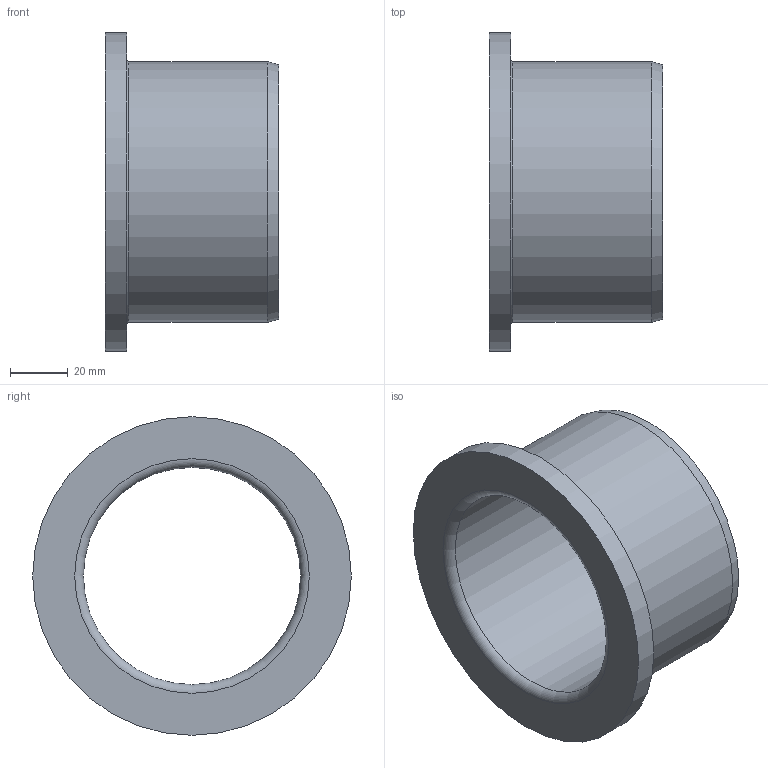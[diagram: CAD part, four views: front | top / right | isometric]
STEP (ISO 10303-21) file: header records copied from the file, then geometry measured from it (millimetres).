
FILE_DESCRIPTION(/* description */ ('Impex Ready, www.impex-ready.pl'),/* implementation_level */ '2;1');
FILE_NAME(/* name */ 'C:\Users\VIKKY\Nextcloud\SM\projekt 10 - części na stronę internetową\Pliki_3D_new\309 Tuleje BG07\309_BG07_STEP\BG07.075060.ipt.step',/* time_stamp */ '2021-12-17T16:46:31+01:00',/* author */ ('SM'),/* organization */ (''),/* preprocessor_version */ 'ST-DEVELOPER v18.1',/* originating_system */ 'Autodesk Inventor 2021',/* authorisation */ '');
FILE_SCHEMA (('AUTOMOTIVE_DESIGN { 1 0 10303 214 3 1 1 }'));
Length unit declared in the file: millimetre
Products named in the file (1): BG07.075060
Bounding box: 60 x 110 x 110 mm (x, y, z)
Volume: 138695.7 mm3; surface area: 40786.9 mm2
Topology: 1 solids, 1 shells, 10 faces, 20 edges, 13 vertices
Faces by surface type: torus 3, cylinder 3, plane 3, cone 1
Full cylindrical faces by diameter (mm): 75 x1, 90 x1, 110 x1
Entity records: 345 total; most frequent: DIRECTION 58, CARTESIAN_POINT 44, ORIENTED_EDGE 40, AXIS2_PLACEMENT_3D 27, EDGE_CURVE 20, CIRCLE 16, EDGE_LOOP 13, VERTEX_POINT 13
